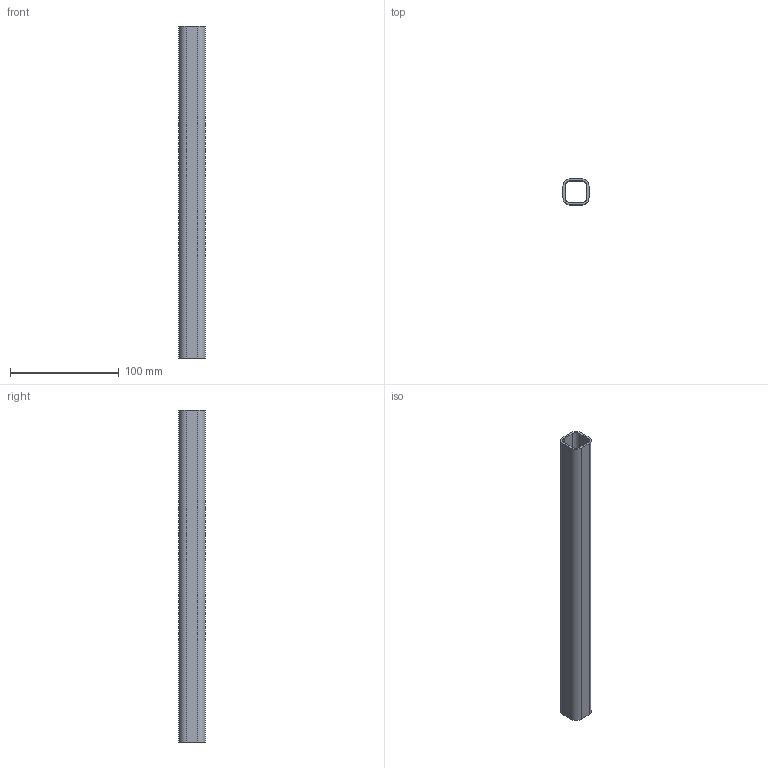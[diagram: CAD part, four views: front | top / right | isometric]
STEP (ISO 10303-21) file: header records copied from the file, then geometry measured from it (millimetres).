
FILE_DESCRIPTION (( 'STEP AP214' ), '1' );
FILE_NAME ('DRP-002-0001-13.STEP', '2011-12-05T20:32:04', ( 'Allred & Associates' ), ( 'Allred & Associates' ), 'SwSTEP 2.0', 'SolidWorks 2011', '' );
FILE_SCHEMA (( 'AUTOMOTIVE_DESIGN' ));
Length unit declared in the file: inch
Products named in the file (1): DRP-002-0001-13
Bounding box: 23.88 x 23.88 x 304.8 mm (x, y, z)
Volume: 45253.1 mm3; surface area: 47806.8 mm2
Topology: 1 solids, 1 shells, 18 faces, 48 edges, 32 vertices
Faces by surface type: plane 10, cylinder 8
Entity records: 612 total; most frequent: DIRECTION 102, CARTESIAN_POINT 99, ORIENTED_EDGE 96, EDGE_CURVE 48, AXIS2_PLACEMENT_3D 35, VECTOR 32, VERTEX_POINT 32, LINE 32
